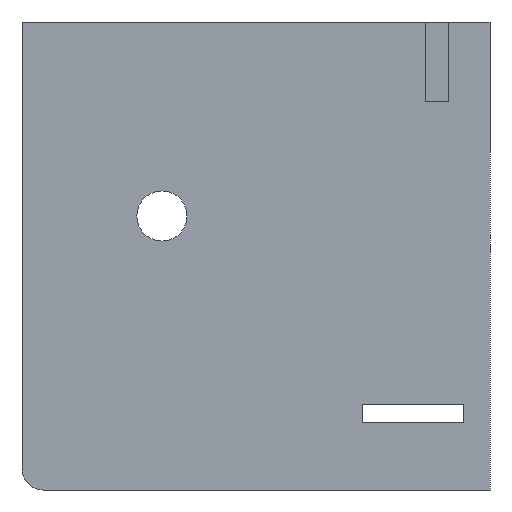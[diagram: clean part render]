
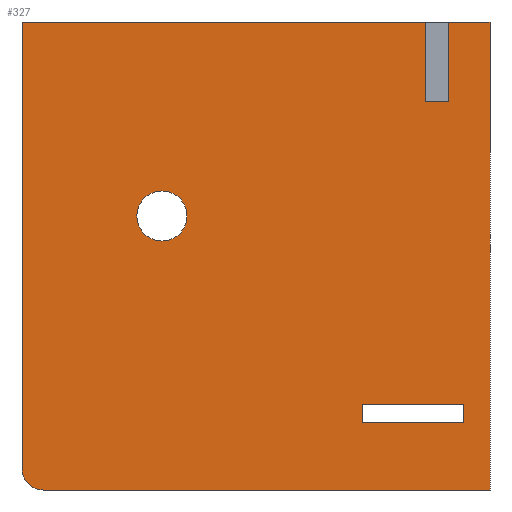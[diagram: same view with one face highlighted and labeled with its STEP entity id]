
A CAD part, left-side view. The second image highlights one B-rep face of the part: STEP entity #327.
In plain terms, the highlighted planar face has unit normal (-1, 0, 0).
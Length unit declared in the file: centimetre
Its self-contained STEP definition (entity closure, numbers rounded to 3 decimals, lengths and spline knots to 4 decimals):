
#13 = CIRCLE ( 'NONE', #1007, 53.5099 ) ;
#37 = DIRECTION ( 'NONE',  ( 0., -1., 0. ) ) ;
#38 = VERTEX_POINT ( 'NONE', #205 ) ;
#44 = CARTESIAN_POINT ( 'NONE',  ( 0., 701.036, 585.4866 ) ) ;
#54 = LINE ( 'NONE', #976, #527 ) ;
#57 = VERTEX_POINT ( 'NONE', #851 ) ;
#70 = DIRECTION ( 'NONE',  ( 0., -1., 0. ) ) ;
#82 = EDGE_CURVE ( 'NONE', #424, #298, #665, .T. ) ;
#86 = CARTESIAN_POINT ( 'NONE',  ( 0., 138.6905, 830.3754 ) ) ;
#90 = CARTESIAN_POINT ( 'NONE',  ( 0., 89.4649, 830.3754 ) ) ;
#107 = DIRECTION ( 'NONE',  ( 0., 0., 1. ) ) ;
#127 = CARTESIAN_POINT ( 'NONE',  ( 0., 1000., 0. ) ) ;
#128 = VECTOR ( 'NONE', #471, 100. ) ;
#130 = EDGE_CURVE ( 'NONE', #570, #1075, #1167, .T. ) ;
#138 = ORIENTED_EDGE ( 'NONE', *, *, #792, .F. ) ;
#168 = CARTESIAN_POINT ( 'NONE',  ( 0., 701.036, 638.9964 ) ) ;
#192 = VERTEX_POINT ( 'NONE', #884 ) ;
#194 = DIRECTION ( 'NONE',  ( -1., 0., 0. ) ) ;
#205 = CARTESIAN_POINT ( 'NONE',  ( 0., 273.4913, 143.9013 ) ) ;
#217 = VECTOR ( 'NONE', #1122, 100. ) ;
#234 = CARTESIAN_POINT ( 'NONE',  ( 0., 89.4649, 830.3754 ) ) ;
#236 = ORIENTED_EDGE ( 'NONE', *, *, #82, .F. ) ;
#246 = ORIENTED_EDGE ( 'NONE', *, *, #542, .F. ) ;
#257 = EDGE_CURVE ( 'NONE', #1180, #570, #361, .T. ) ;
#261 = VERTEX_POINT ( 'NONE', #1003 ) ;
#264 = VERTEX_POINT ( 'NONE', #728 ) ;
#271 = ORIENTED_EDGE ( 'NONE', *, *, #432, .T. ) ;
#272 = VECTOR ( 'NONE', #1044, 100. ) ;
#273 = CARTESIAN_POINT ( 'NONE',  ( 0., 1000., 1000. ) ) ;
#292 = LINE ( 'NONE', #565, #804 ) ;
#298 = VERTEX_POINT ( 'NONE', #546 ) ;
#327 = ADVANCED_FACE ( 'NONE', ( #736, #1195, #732 ), #465, .F. ) ;
#341 = VERTEX_POINT ( 'NONE', #168 ) ;
#361 = LINE ( 'NONE', #86, #499 ) ;
#373 = EDGE_CURVE ( 'NONE', #264, #1168, #658, .T. ) ;
#379 = CARTESIAN_POINT ( 'NONE',  ( 0., 56.9148, 183.2249 ) ) ;
#387 = DIRECTION ( 'NONE',  ( 0., 0., -1. ) ) ;
#400 = CARTESIAN_POINT ( 'NONE',  ( 0., 1000., 1000. ) ) ;
#401 = ORIENTED_EDGE ( 'NONE', *, *, #1138, .F. ) ;
#403 = DIRECTION ( 'NONE',  ( -1., 0., 0. ) ) ;
#412 = VECTOR ( 'NONE', #560, 100. ) ;
#424 = VERTEX_POINT ( 'NONE', #581 ) ;
#432 = EDGE_CURVE ( 'NONE', #57, #261, #292, .T. ) ;
#452 = VECTOR ( 'NONE', #841, 100. ) ;
#465 = PLANE ( 'NONE',  #742 ) ;
#471 = DIRECTION ( 'NONE',  ( 0., 0., 1. ) ) ;
#495 = ORIENTED_EDGE ( 'NONE', *, *, #1148, .T. ) ;
#499 = VECTOR ( 'NONE', #540, 100. ) ;
#521 = EDGE_CURVE ( 'NONE', #261, #1045, #607, .T. ) ;
#526 = VERTEX_POINT ( 'NONE', #764 ) ;
#527 = VECTOR ( 'NONE', #870, 100. ) ;
#535 = AXIS2_PLACEMENT_3D ( 'NONE', #854, #403, #770 ) ;
#540 = DIRECTION ( 'NONE',  ( 0., 0., -1. ) ) ;
#542 = EDGE_CURVE ( 'NONE', #341, #808, #13, .T. ) ;
#546 = CARTESIAN_POINT ( 'NONE',  ( 0., 0., 0. ) ) ;
#560 = DIRECTION ( 'NONE',  ( 0., 1., 0. ) ) ;
#565 = CARTESIAN_POINT ( 'NONE',  ( 0., 1000., 1000. ) ) ;
#566 = CARTESIAN_POINT ( 'NONE',  ( 0., 56.9148, 183.2249 ) ) ;
#569 = LINE ( 'NONE', #936, #795 ) ;
#570 = VERTEX_POINT ( 'NONE', #750 ) ;
#573 = LINE ( 'NONE', #400, #217 ) ;
#578 = CARTESIAN_POINT ( 'NONE',  ( 0., 273.4913, 143.9013 ) ) ;
#581 = CARTESIAN_POINT ( 'NONE',  ( 0., 0., 1000. ) ) ;
#589 = ORIENTED_EDGE ( 'NONE', *, *, #614, .F. ) ;
#593 = VECTOR ( 'NONE', #387, 100. ) ;
#594 = CARTESIAN_POINT ( 'NONE',  ( 0., 953.8636, 0. ) ) ;
#599 = ORIENTED_EDGE ( 'NONE', *, *, #939, .F. ) ;
#606 = ORIENTED_EDGE ( 'NONE', *, *, #661, .F. ) ;
#607 = CIRCLE ( 'NONE', #535, 46.1364 ) ;
#614 = EDGE_CURVE ( 'NONE', #1075, #526, #839, .T. ) ;
#638 = DIRECTION ( 'NONE',  ( 1., 0., 0. ) ) ;
#639 = CARTESIAN_POINT ( 'NONE',  ( 0., 701.036, 585.4866 ) ) ;
#658 = LINE ( 'NONE', #837, #763 ) ;
#661 = EDGE_CURVE ( 'NONE', #808, #341, #991, .T. ) ;
#665 = LINE ( 'NONE', #1036, #593 ) ;
#669 = DIRECTION ( 'NONE',  ( -1., 0., 0. ) ) ;
#671 = LINE ( 'NONE', #127, #452 ) ;
#675 = LINE ( 'NONE', #578, #272 ) ;
#678 = DIRECTION ( 'NONE',  ( 0., 0., -1. ) ) ;
#716 = ORIENTED_EDGE ( 'NONE', *, *, #373, .F. ) ;
#728 = CARTESIAN_POINT ( 'NONE',  ( 0., 56.9148, 143.9013 ) ) ;
#732 = FACE_OUTER_BOUND ( 'NONE', #1050, .T. ) ;
#736 = FACE_BOUND ( 'NONE', #964, .T. ) ;
#742 = AXIS2_PLACEMENT_3D ( 'NONE', #273, #638, #1105 ) ;
#750 = CARTESIAN_POINT ( 'NONE',  ( 0., 138.6905, 830.3754 ) ) ;
#760 = EDGE_CURVE ( 'NONE', #192, #38, #675, .T. ) ;
#763 = VECTOR ( 'NONE', #1121, 100. ) ;
#764 = CARTESIAN_POINT ( 'NONE',  ( 0., 89.4649, 1000. ) ) ;
#765 = LINE ( 'NONE', #566, #412 ) ;
#770 = DIRECTION ( 'NONE',  ( 0., 0., -1. ) ) ;
#792 = EDGE_CURVE ( 'NONE', #57, #1180, #573, .T. ) ;
#795 = VECTOR ( 'NONE', #37, 100. ) ;
#796 = ORIENTED_EDGE ( 'NONE', *, *, #130, .F. ) ;
#804 = VECTOR ( 'NONE', #678, 100. ) ;
#808 = VERTEX_POINT ( 'NONE', #852 ) ;
#822 = ORIENTED_EDGE ( 'NONE', *, *, #760, .F. ) ;
#837 = CARTESIAN_POINT ( 'NONE',  ( 0., 56.9148, 143.9013 ) ) ;
#839 = LINE ( 'NONE', #924, #128 ) ;
#841 = DIRECTION ( 'NONE',  ( 0., -1., 0. ) ) ;
#851 = CARTESIAN_POINT ( 'NONE',  ( 0., 1000., 1000. ) ) ;
#852 = CARTESIAN_POINT ( 'NONE',  ( 0., 701.036, 531.9767 ) ) ;
#854 = CARTESIAN_POINT ( 'NONE',  ( 0., 953.8636, 46.1364 ) ) ;
#861 = AXIS2_PLACEMENT_3D ( 'NONE', #639, #194, #107 ) ;
#863 = CARTESIAN_POINT ( 'NONE',  ( 0., 138.6905, 1000. ) ) ;
#867 = EDGE_CURVE ( 'NONE', #526, #424, #569, .T. ) ;
#870 = DIRECTION ( 'NONE',  ( 0., -1., 0. ) ) ;
#879 = ORIENTED_EDGE ( 'NONE', *, *, #257, .F. ) ;
#884 = CARTESIAN_POINT ( 'NONE',  ( 0., 273.4913, 183.2249 ) ) ;
#924 = CARTESIAN_POINT ( 'NONE',  ( 0., 89.4649, 830.3754 ) ) ;
#936 = CARTESIAN_POINT ( 'NONE',  ( 0., 1000., 1000. ) ) ;
#939 = EDGE_CURVE ( 'NONE', #38, #264, #54, .T. ) ;
#954 = DIRECTION ( 'NONE',  ( 0., 0., 1. ) ) ;
#964 = EDGE_LOOP ( 'NONE', ( #246, #606 ) ) ;
#976 = CARTESIAN_POINT ( 'NONE',  ( 0., 56.9148, 143.9013 ) ) ;
#991 = CIRCLE ( 'NONE', #861, 53.5099 ) ;
#996 = VECTOR ( 'NONE', #70, 100. ) ;
#1003 = CARTESIAN_POINT ( 'NONE',  ( 0., 1000., 46.1364 ) ) ;
#1007 = AXIS2_PLACEMENT_3D ( 'NONE', #44, #669, #954 ) ;
#1036 = CARTESIAN_POINT ( 'NONE',  ( 0., 0., 1000. ) ) ;
#1044 = DIRECTION ( 'NONE',  ( 0., 0., -1. ) ) ;
#1045 = VERTEX_POINT ( 'NONE', #594 ) ;
#1050 = EDGE_LOOP ( 'NONE', ( #796, #879, #138, #271, #1143, #495, #236, #1146, #589 ) ) ;
#1075 = VERTEX_POINT ( 'NONE', #90 ) ;
#1105 = DIRECTION ( 'NONE',  ( 0., 0., -1. ) ) ;
#1121 = DIRECTION ( 'NONE',  ( 0., 0., 1. ) ) ;
#1122 = DIRECTION ( 'NONE',  ( 0., -1., 0. ) ) ;
#1138 = EDGE_CURVE ( 'NONE', #1168, #192, #765, .T. ) ;
#1143 = ORIENTED_EDGE ( 'NONE', *, *, #521, .T. ) ;
#1146 = ORIENTED_EDGE ( 'NONE', *, *, #867, .F. ) ;
#1148 = EDGE_CURVE ( 'NONE', #1045, #298, #671, .T. ) ;
#1167 = LINE ( 'NONE', #234, #996 ) ;
#1168 = VERTEX_POINT ( 'NONE', #379 ) ;
#1176 = EDGE_LOOP ( 'NONE', ( #716, #599, #822, #401 ) ) ;
#1180 = VERTEX_POINT ( 'NONE', #863 ) ;
#1195 = FACE_BOUND ( 'NONE', #1176, .T. ) ;
